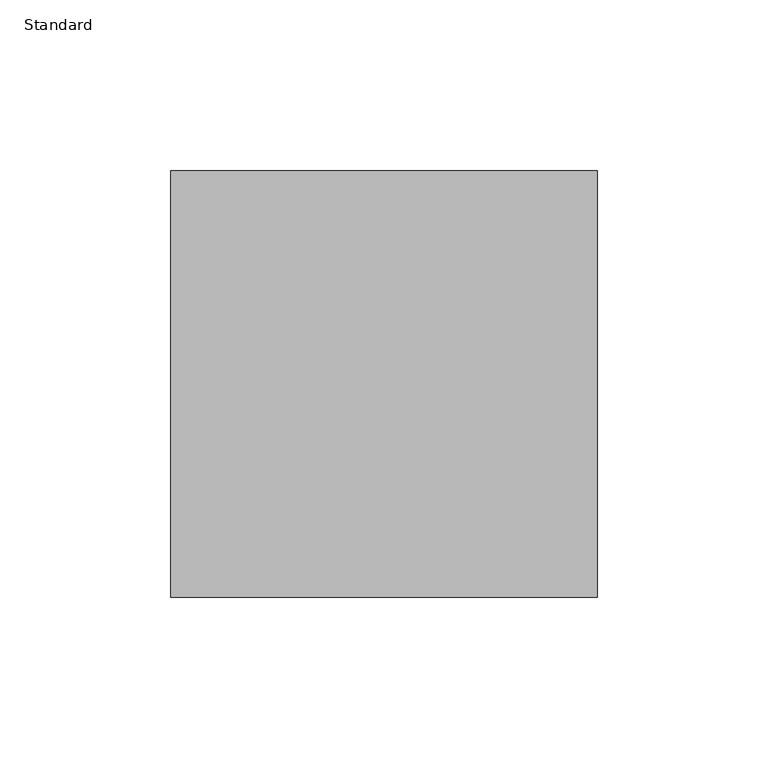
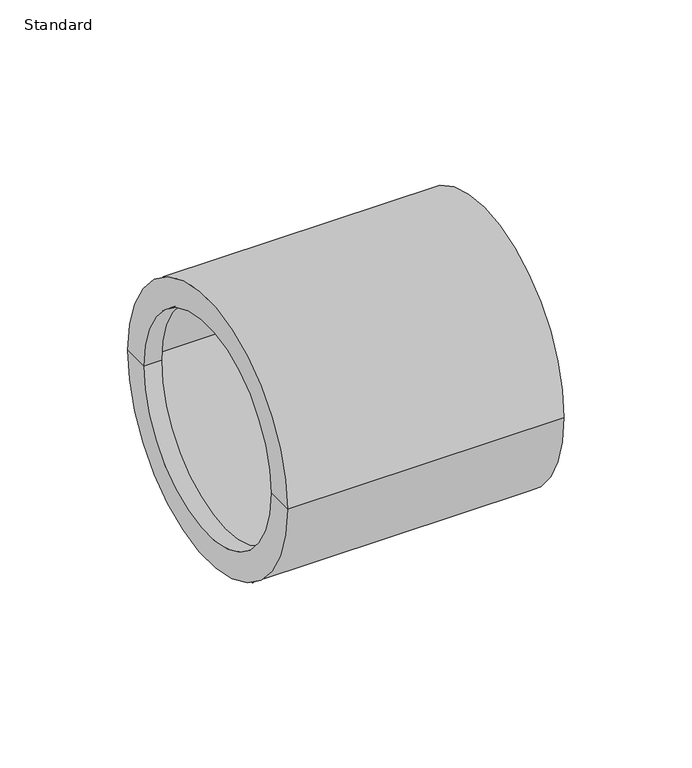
"""IFC4 building model written with IfcOpenShell, lengths in millimetres: pipe fitting geometry, Durapipe_PipeFitting_PVC_ReducingBush : Standard."""

from ifc_helpers import new_model, si_unit, frame, origin, place, context, project, spatial, polyline, circle_curve, source, transform, mapped, element, save
from ifc_brep_helpers import plane_surface, cylinder_surface, revolved_surface, advanced_brep


def standard_9c856316(model_context):
    return source(origin(), model_context, "Body", "AdvancedBrep", [
        advanced_brep(
        [(-8.0, -50.0, 0.0), (-8.0, 50.0, 0.0), (-8.0, 62.5, 0.0), (-8.0, -62.5, 0.0), (0.0, -50.0, 0.0), (0.0, 50.0, 0.0), (0.0, -55.0, 0.0), (0.0, 55.0, 0.0), (117.0, -55.0, 0.0), (117.0, 55.0, 0.0), (117.0, -62.5, 0.0), (117.0, 62.5, 0.0)],
        [
            (0, 1, circle_curve(frame((-8.0, 0.0, 0.0), z_axis=(1.0, 0.0, 0.0), x_axis=(0.0, 1.0, 0.0)), 50.0)),
            (1, 2),
            (2, 3, circle_curve(frame((-8.0, 0.0, 0.0), z_axis=(-1.0, 0.0, 0.0), x_axis=(0.0, 1.0, 0.0)), 62.5)),
            (3, 0),
            (1, 0, circle_curve(frame((-8.0, 0.0, 0.0), z_axis=(1.0, 0.0, 0.0), x_axis=(0.0, 1.0, 0.0)), 50.0)),
            (3, 2, circle_curve(frame((-8.0, 0.0, 0.0), z_axis=(-1.0, 0.0, 0.0), x_axis=(0.0, 1.0, 0.0)), 62.5)),
            (4, 5, circle_curve(frame((0.0, 0.0, 0.0), z_axis=(1.0, 0.0, 0.0), x_axis=(0.0, 1.0, 0.0)), 50.0)),
            (5, 1),
            (0, 4),
            (5, 4, circle_curve(frame((0.0, 0.0, 0.0), z_axis=(1.0, 0.0, 0.0), x_axis=(0.0, 1.0, 0.0)), 50.0)),
            (6, 7, circle_curve(frame((0.0, 0.0, 0.0), z_axis=(1.0, 0.0, 0.0), x_axis=(0.0, 1.0, 0.0)), 55.0)),
            (7, 5),
            (4, 6),
            (7, 6, circle_curve(frame((0.0, 0.0, 0.0), z_axis=(1.0, 0.0, 0.0), x_axis=(0.0, 1.0, 0.0)), 55.0)),
            (8, 9, circle_curve(frame((117.0, 0.0, 0.0), z_axis=(1.0, 0.0, 0.0), x_axis=(0.0, 1.0, 0.0)), 55.0)),
            (9, 7),
            (6, 8),
            (9, 8, circle_curve(frame((117.0, 0.0, 0.0), z_axis=(1.0, 0.0, 0.0), x_axis=(0.0, 1.0, 0.0)), 55.0)),
            (10, 11, circle_curve(frame((117.0, 0.0, 0.0), z_axis=(1.0, 0.0, 0.0), x_axis=(0.0, 1.0, 0.0)), 62.5)),
            (11, 9),
            (8, 10),
            (11, 10, circle_curve(frame((117.0, 0.0, 0.0), z_axis=(1.0, 0.0, 0.0), x_axis=(0.0, 1.0, 0.0)), 62.5)),
            (2, 11),
            (10, 3),
        ],
        [
            plane_surface(frame((-8.0, 0.0, 0.0), z_axis=(-1.0, 0.0, 0.0), x_axis=(0.0, 1.0, 0.0))),
            revolved_surface(polyline([(-8.0, 50.0, 0.0), (0.0, 50.0, 0.0)]), (2103.0, 0.0, 0.0), (-1.0, 0.0, 0.0)),
            plane_surface(frame((0.0, 0.0, 0.0), z_axis=(1.0, 0.0, 0.0), x_axis=(0.0, 1.0, 0.0))),
            revolved_surface(polyline([(0.0, 55.0, 0.0), (117.0, 55.0, 0.0)]), (2103.0, 0.0, 0.0), (-1.0, 0.0, 0.0)),
            plane_surface(frame((117.0, 0.0, 0.0), z_axis=(1.0, 0.0, 0.0), x_axis=(0.0, 1.0, 0.0))),
            cylinder_surface(frame((2103.0, 0.0, 0.0), z_axis=(-1.0, 0.0, 0.0), x_axis=(0.0, 1.0, 0.0)), 62.5),
        ],
        [
            (0, [[1, 2, 3, 4]]),
            (0, [[5, -4, 6, -2]]),
            (1, [[7, 8, -1, 9]]),
            (1, [[10, -9, -5, -8]]),
            (2, [[11, 12, -7, 13]]),
            (2, [[14, -13, -10, -12]]),
            (3, [[15, 16, -11, 17]]),
            (3, [[18, -17, -14, -16]]),
            (4, [[19, 20, -15, 21]]),
            (4, [[22, -21, -18, -20]]),
            (5, [[-3, 23, -19, 24]]),
            (5, [[-6, -24, -22, -23]]),
        ],
    ),
    ])


if __name__ == "__main__":
    model = new_model("IFC4")
    model_context = context("Model", 3, world=origin())
    ifc_project = project(units=[si_unit("LENGTHUNIT", "METRE", prefix="MILLI")], contexts=[model_context])
    site = spatial("IfcSite", under=ifc_project)
    building = spatial("IfcBuilding", under=site)
    placement = place(None, origin())
    standard_shape = standard_9c856316(model_context)
    element("IfcPipeFitting", 1, ObjectType="Durapipe_PipeFitting_PVC_ReducingBush : Standard", at=placement, inside=building, context=model_context, shape_type="MappedRepresentation", body=[
        mapped(standard_shape, transform((0.0, 0.0, 0.0), x_axis=(1.0, 0.0, 0.0), y_axis=(0.0, 1.0, 0.0), z_axis=(0.0, 0.0, 1.0))),
    ])
    save(model, "model.ifc")
